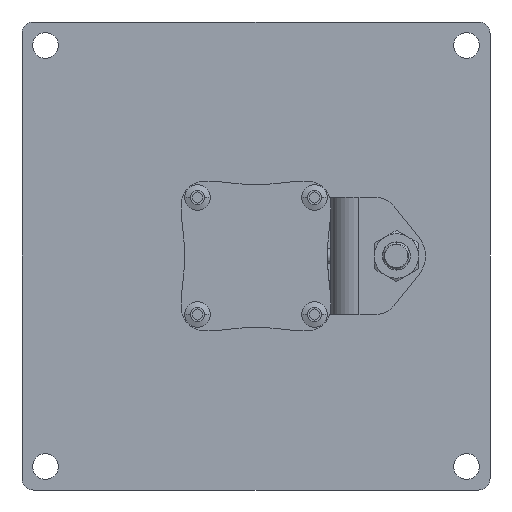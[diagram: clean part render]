
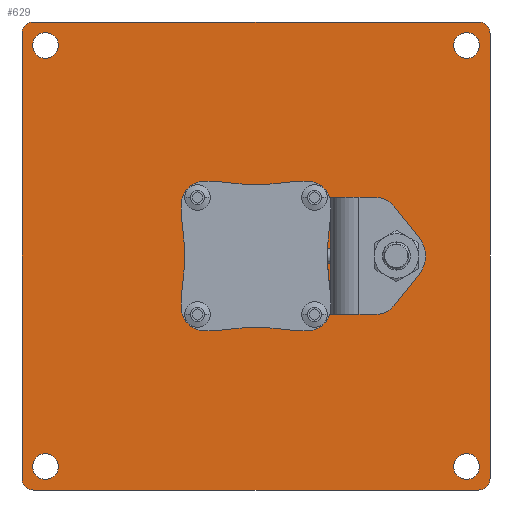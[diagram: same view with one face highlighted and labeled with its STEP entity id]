
A CAD part, front view. The second image highlights one B-rep face of the part: STEP entity #629.
In plain terms, the highlighted planar face has unit normal (0, -1, 0) as drawn and (0, 1, 0) by its records, which use the part's own axes.
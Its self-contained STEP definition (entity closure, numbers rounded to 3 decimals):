
#29=DIRECTION('',(-1.,0.,0.));
#30=VECTOR('',#29,190.);
#31=CARTESIAN_POINT('',(95.,6.,-100.));
#32=LINE('',#31,#30);
#33=CARTESIAN_POINT('',(90.,6.,90.));
#34=DIRECTION('',(0.,-1.,0.));
#35=DIRECTION('',(1.,0.,0.));
#36=AXIS2_PLACEMENT_3D('',#33,#34,#35);
#38=CARTESIAN_POINT('',(90.,6.,90.));
#39=DIRECTION('',(0.,-1.,0.));
#40=DIRECTION('',(-1.,0.,0.));
#41=AXIS2_PLACEMENT_3D('',#38,#39,#40);
#43=CARTESIAN_POINT('',(-90.,6.,90.));
#44=DIRECTION('',(0.,1.,0.));
#45=DIRECTION('',(-1.,0.,0.));
#46=AXIS2_PLACEMENT_3D('',#43,#44,#45);
#48=CARTESIAN_POINT('',(-90.,6.,90.));
#49=DIRECTION('',(0.,1.,0.));
#50=DIRECTION('',(1.,0.,0.));
#51=AXIS2_PLACEMENT_3D('',#48,#49,#50);
#53=CARTESIAN_POINT('',(-90.,6.,-90.));
#54=DIRECTION('',(0.,1.,0.));
#55=DIRECTION('',(1.,0.,0.));
#56=AXIS2_PLACEMENT_3D('',#53,#54,#55);
#58=CARTESIAN_POINT('',(-90.,6.,-90.));
#59=DIRECTION('',(0.,1.,0.));
#60=DIRECTION('',(-1.,0.,0.));
#61=AXIS2_PLACEMENT_3D('',#58,#59,#60);
#63=CARTESIAN_POINT('',(90.,6.,-90.));
#64=DIRECTION('',(0.,-1.,0.));
#65=DIRECTION('',(-1.,0.,0.));
#66=AXIS2_PLACEMENT_3D('',#63,#64,#65);
#68=CARTESIAN_POINT('',(90.,6.,-90.));
#69=DIRECTION('',(0.,-1.,0.));
#70=DIRECTION('',(1.,0.,0.));
#71=AXIS2_PLACEMENT_3D('',#68,#69,#70);
#73=CARTESIAN_POINT('',(-95.,6.,95.));
#74=DIRECTION('',(0.,1.,0.));
#75=DIRECTION('',(-1.,0.,0.));
#76=AXIS2_PLACEMENT_3D('',#73,#74,#75);
#78=CARTESIAN_POINT('',(-95.,6.,-95.));
#79=DIRECTION('',(0.,1.,0.));
#80=DIRECTION('',(0.,0.,-1.));
#81=AXIS2_PLACEMENT_3D('',#78,#79,#80);
#83=CARTESIAN_POINT('',(95.,6.,-95.));
#84=DIRECTION('',(0.,1.,0.));
#85=DIRECTION('',(1.,0.,0.));
#86=AXIS2_PLACEMENT_3D('',#83,#84,#85);
#88=DIRECTION('',(0.,0.,1.));
#89=VECTOR('',#88,190.);
#90=CARTESIAN_POINT('',(100.,6.,-95.));
#91=LINE('',#90,#89);
#92=CARTESIAN_POINT('',(95.,6.,95.));
#93=DIRECTION('',(0.,1.,0.));
#94=DIRECTION('',(0.,0.,1.));
#95=AXIS2_PLACEMENT_3D('',#92,#93,#94);
#97=CARTESIAN_POINT('',(-25.,6.,-25.));
#98=DIRECTION('',(0.,-1.,0.));
#99=DIRECTION('',(0.,0.,-1.));
#100=AXIS2_PLACEMENT_3D('',#97,#98,#99);
#102=CARTESIAN_POINT('',(-25.,6.,-25.));
#103=DIRECTION('',(0.,-1.,0.));
#104=DIRECTION('',(0.,0.,1.));
#105=AXIS2_PLACEMENT_3D('',#102,#103,#104);
#107=CARTESIAN_POINT('',(-25.,6.,25.));
#108=DIRECTION('',(0.,1.,0.));
#109=DIRECTION('',(0.,0.,1.));
#110=AXIS2_PLACEMENT_3D('',#107,#108,#109);
#112=CARTESIAN_POINT('',(-25.,6.,25.));
#113=DIRECTION('',(0.,1.,0.));
#114=DIRECTION('',(0.,0.,-1.));
#115=AXIS2_PLACEMENT_3D('',#112,#113,#114);
#117=CARTESIAN_POINT('',(25.,6.,-25.));
#118=DIRECTION('',(0.,1.,0.));
#119=DIRECTION('',(0.,0.,-1.));
#120=AXIS2_PLACEMENT_3D('',#117,#118,#119);
#122=CARTESIAN_POINT('',(25.,6.,-25.));
#123=DIRECTION('',(0.,1.,0.));
#124=DIRECTION('',(0.,0.,1.));
#125=AXIS2_PLACEMENT_3D('',#122,#123,#124);
#127=CARTESIAN_POINT('',(25.,6.,25.));
#128=DIRECTION('',(0.,-1.,0.));
#129=DIRECTION('',(0.,0.,1.));
#130=AXIS2_PLACEMENT_3D('',#127,#128,#129);
#132=CARTESIAN_POINT('',(25.,6.,25.));
#133=DIRECTION('',(0.,-1.,0.));
#134=DIRECTION('',(0.,0.,-1.));
#135=AXIS2_PLACEMENT_3D('',#132,#133,#134);
#281=DIRECTION('',(0.,0.,1.));
#282=VECTOR('',#281,190.);
#283=CARTESIAN_POINT('',(-100.,6.,-95.));
#284=LINE('',#283,#282);
#289=DIRECTION('',(-1.,0.,0.));
#290=VECTOR('',#289,190.);
#291=CARTESIAN_POINT('',(95.,6.,100.));
#292=LINE('',#291,#290);
#417=CARTESIAN_POINT('',(95.5,6.,90.));
#418=CARTESIAN_POINT('',(84.5,6.,90.));
#419=VERTEX_POINT('',#417);
#420=VERTEX_POINT('',#418);
#425=CARTESIAN_POINT('',(-84.5,6.,-90.));
#427=VERTEX_POINT('',#425);
#429=CARTESIAN_POINT('',(-95.5,6.,-90.));
#431=VERTEX_POINT('',#429);
#433=CARTESIAN_POINT('',(84.5,6.,-90.));
#435=VERTEX_POINT('',#433);
#437=CARTESIAN_POINT('',(95.5,6.,-90.));
#439=VERTEX_POINT('',#437);
#445=CARTESIAN_POINT('',(-100.,6.,95.));
#446=VERTEX_POINT('',#445);
#447=CARTESIAN_POINT('',(-95.,6.,100.));
#448=VERTEX_POINT('',#447);
#449=CARTESIAN_POINT('',(-95.,6.,-100.));
#450=CARTESIAN_POINT('',(-100.,6.,-95.));
#451=VERTEX_POINT('',#449);
#452=VERTEX_POINT('',#450);
#461=CARTESIAN_POINT('',(100.,6.,-95.));
#462=VERTEX_POINT('',#461);
#463=CARTESIAN_POINT('',(95.,6.,-100.));
#464=VERTEX_POINT('',#463);
#465=CARTESIAN_POINT('',(95.,6.,100.));
#466=CARTESIAN_POINT('',(100.,6.,95.));
#467=VERTEX_POINT('',#465);
#468=VERTEX_POINT('',#466);
#473=CARTESIAN_POINT('',(-95.5,6.,90.));
#475=VERTEX_POINT('',#473);
#477=CARTESIAN_POINT('',(-84.5,6.,90.));
#479=VERTEX_POINT('',#477);
#485=CARTESIAN_POINT('',(-25.,6.,-28.25));
#486=CARTESIAN_POINT('',(-25.,6.,-21.75));
#487=VERTEX_POINT('',#485);
#488=VERTEX_POINT('',#486);
#499=CARTESIAN_POINT('',(-25.,6.,28.25));
#500=VERTEX_POINT('',#499);
#503=CARTESIAN_POINT('',(-25.,6.,21.75));
#504=VERTEX_POINT('',#503);
#511=CARTESIAN_POINT('',(25.,6.,-28.25));
#512=VERTEX_POINT('',#511);
#515=CARTESIAN_POINT('',(25.,6.,-21.75));
#516=VERTEX_POINT('',#515);
#523=CARTESIAN_POINT('',(25.,6.,28.25));
#524=VERTEX_POINT('',#523);
#527=CARTESIAN_POINT('',(25.,6.,21.75));
#528=VERTEX_POINT('',#527);
#560=CARTESIAN_POINT('',(100.,6.,-100.));
#561=DIRECTION('',(0.,1.,0.));
#562=DIRECTION('',(-1.,0.,0.));
#563=AXIS2_PLACEMENT_3D('',#560,#561,#562);
#564=PLANE('',#563);
#566=ORIENTED_EDGE('',*,*,#565,.F.);
#568=ORIENTED_EDGE('',*,*,#567,.F.);
#569=ORIENTED_EDGE('',*,*,#550,.F.);
#570=ORIENTED_EDGE('',*,*,#540,.F.);
#572=ORIENTED_EDGE('',*,*,#571,.F.);
#574=ORIENTED_EDGE('',*,*,#573,.T.);
#576=ORIENTED_EDGE('',*,*,#575,.F.);
#578=ORIENTED_EDGE('',*,*,#577,.T.);
#579=EDGE_LOOP('',(#566,#568,#569,#570,#572,#574,#576,#578));
#580=FACE_OUTER_BOUND('',#579,.F.);
#582=ORIENTED_EDGE('',*,*,#581,.T.);
#584=ORIENTED_EDGE('',*,*,#583,.T.);
#585=EDGE_LOOP('',(#582,#584));
#586=FACE_BOUND('',#585,.F.);
#588=ORIENTED_EDGE('',*,*,#587,.T.);
#590=ORIENTED_EDGE('',*,*,#589,.T.);
#591=EDGE_LOOP('',(#588,#590));
#592=FACE_BOUND('',#591,.F.);
#594=ORIENTED_EDGE('',*,*,#593,.F.);
#596=ORIENTED_EDGE('',*,*,#595,.F.);
#597=EDGE_LOOP('',(#594,#596));
#598=FACE_BOUND('',#597,.F.);
#600=ORIENTED_EDGE('',*,*,#599,.F.);
#602=ORIENTED_EDGE('',*,*,#601,.F.);
#603=EDGE_LOOP('',(#600,#602));
#604=FACE_BOUND('',#603,.F.);
#606=ORIENTED_EDGE('',*,*,#605,.F.);
#608=ORIENTED_EDGE('',*,*,#607,.F.);
#609=EDGE_LOOP('',(#606,#608));
#610=FACE_BOUND('',#609,.F.);
#612=ORIENTED_EDGE('',*,*,#611,.T.);
#614=ORIENTED_EDGE('',*,*,#613,.T.);
#615=EDGE_LOOP('',(#612,#614));
#616=FACE_BOUND('',#615,.F.);
#618=ORIENTED_EDGE('',*,*,#617,.T.);
#620=ORIENTED_EDGE('',*,*,#619,.T.);
#621=EDGE_LOOP('',(#618,#620));
#622=FACE_BOUND('',#621,.F.);
#624=ORIENTED_EDGE('',*,*,#623,.F.);
#626=ORIENTED_EDGE('',*,*,#625,.F.);
#627=EDGE_LOOP('',(#624,#626));
#628=FACE_BOUND('',#627,.F.);
#37=CIRCLE('',#36,5.5);
#42=CIRCLE('',#41,5.5);
#47=CIRCLE('',#46,5.5);
#52=CIRCLE('',#51,5.5);
#57=CIRCLE('',#56,5.5);
#62=CIRCLE('',#61,5.5);
#67=CIRCLE('',#66,5.5);
#72=CIRCLE('',#71,5.5);
#77=CIRCLE('',#76,5.);
#82=CIRCLE('',#81,5.);
#87=CIRCLE('',#86,5.);
#96=CIRCLE('',#95,5.);
#101=CIRCLE('',#100,3.25);
#106=CIRCLE('',#105,3.25);
#111=CIRCLE('',#110,3.25);
#116=CIRCLE('',#115,3.25);
#121=CIRCLE('',#120,3.25);
#126=CIRCLE('',#125,3.25);
#131=CIRCLE('',#130,3.25);
#136=CIRCLE('',#135,3.25);
#540=EDGE_CURVE('',#464,#451,#32,.T.);
#550=EDGE_CURVE('',#451,#452,#82,.T.);
#565=EDGE_CURVE('',#446,#448,#77,.T.);
#567=EDGE_CURVE('',#452,#446,#284,.T.);
#571=EDGE_CURVE('',#462,#464,#87,.T.);
#573=EDGE_CURVE('',#462,#468,#91,.T.);
#575=EDGE_CURVE('',#467,#468,#96,.T.);
#577=EDGE_CURVE('',#467,#448,#292,.T.);
#581=EDGE_CURVE('',#475,#479,#47,.T.);
#583=EDGE_CURVE('',#479,#475,#52,.T.);
#587=EDGE_CURVE('',#427,#431,#57,.T.);
#589=EDGE_CURVE('',#431,#427,#62,.T.);
#593=EDGE_CURVE('',#435,#439,#67,.T.);
#595=EDGE_CURVE('',#439,#435,#72,.T.);
#599=EDGE_CURVE('',#419,#420,#37,.T.);
#601=EDGE_CURVE('',#420,#419,#42,.T.);
#605=EDGE_CURVE('',#487,#488,#101,.T.);
#607=EDGE_CURVE('',#488,#487,#106,.T.);
#611=EDGE_CURVE('',#500,#504,#111,.T.);
#613=EDGE_CURVE('',#504,#500,#116,.T.);
#617=EDGE_CURVE('',#512,#516,#121,.T.);
#619=EDGE_CURVE('',#516,#512,#126,.T.);
#623=EDGE_CURVE('',#524,#528,#131,.T.);
#625=EDGE_CURVE('',#528,#524,#136,.T.);
#629=ADVANCED_FACE('',(#580,#586,#592,#598,#604,#610,#616,#622,#628),#564,.T.);
